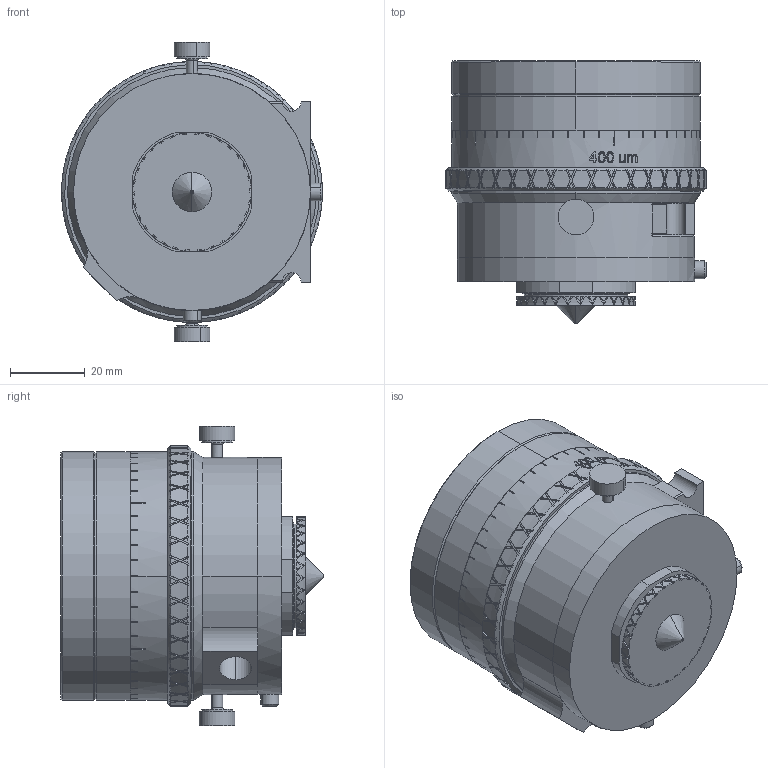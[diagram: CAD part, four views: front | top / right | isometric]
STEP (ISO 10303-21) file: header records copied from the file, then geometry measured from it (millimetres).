
FILE_DESCRIPTION (( 'STEP AP214' ), '1' );
FILE_NAME ('MMH-25-34-50.STEP', '2017-07-27T20:32:23', ( '' ), ( '' ), 'SwSTEP 2.0', 'SolidWorks 2017', '' );
FILE_SCHEMA (( 'AUTOMOTIVE_DESIGN' ));
Products named in the file (1): MMH-25-34-50
Bounding box: 69.85 x 70.38 x 80.3 mm (x, y, z)
Volume: 178548.2 mm3; surface area: 47810.4 mm2
Topology: 1 solids, 1 shells, 1440 faces, 4210 edges, 2818 vertices
Faces by surface type: plane 996, cylinder 314, bspline 94, cone 32, torus 4
Entity records: 52861 total; most frequent: CARTESIAN_POINT 17278, ORIENTED_EDGE 8420, DIRECTION 6292, EDGE_CURVE 4210, VERTEX_POINT 2818, LINE 2296, VECTOR 2296, AXIS2_PLACEMENT_3D 1998
